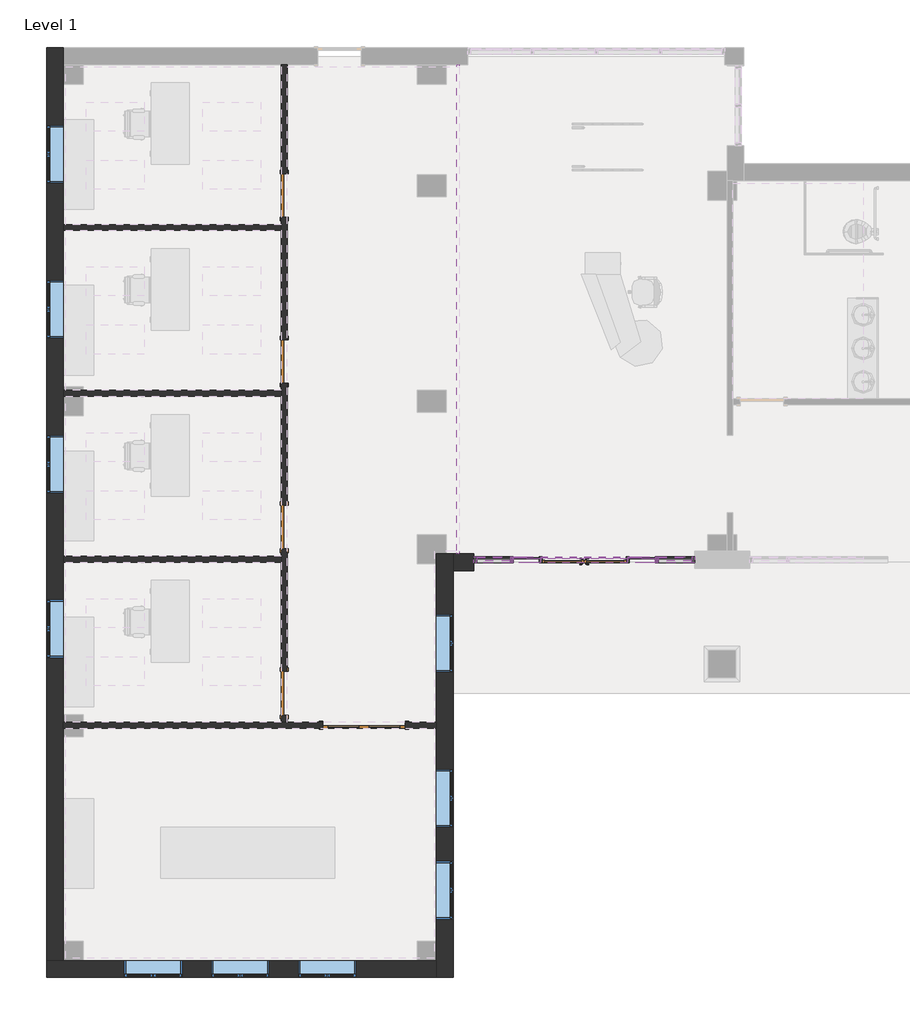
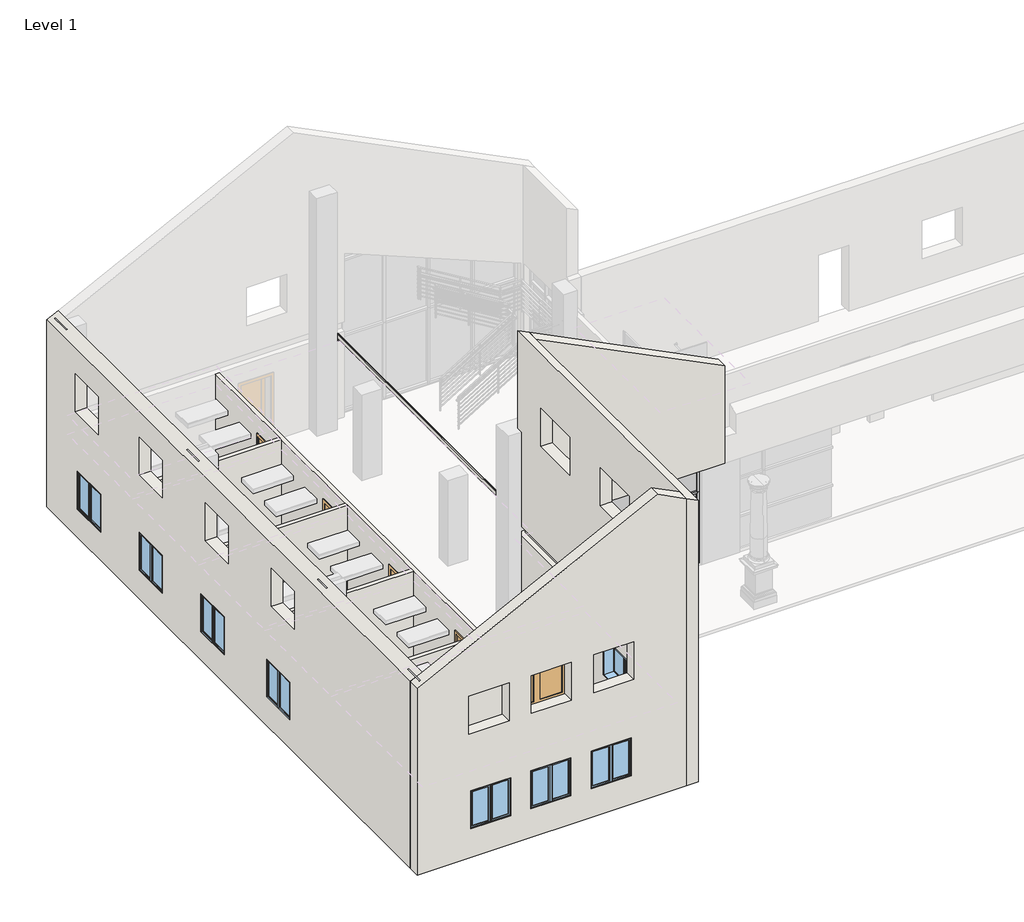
# One storey, part 1 of 8: 28 members, 10 walls, 10 windows, 9 plates, 6 doors.
"""IFC4 building model written with IfcOpenShell, lengths in millimetres."""

from ifc_helpers import new_model, si_unit, origin, origin_with_axes, place, context, project, spatial, polyline, outline, extrude, faceted_brep, transform, mapped, element, save
from components import curtain_wall_store_front_dbl_store_front_double_door_b1cda55e, door_8c1e798b, door_eb9f8b14, member_a715cb85, member_2b49869a, member_c7c5a8a0, member_f3028526, member_75074519, member_c4de40ee, member_2fae0574, member_47bfaf8a, member_13dc6413, member_4ab4c2f5, member_b5e65c95, member_b3f2e294, member_d60e8053, member_3ca69e07, member_338de68b, system_panel_glazed_53b4157c, system_panel_glazed_7b5ce646, system_panel_glazed_23a32a5b, system_panel_glazed_4b03a3f1, system_panel_glazed_2f00aa6c, system_panel_glazed_88a41a63, system_panel_solid_52285aff, system_panel_solid_6039f36e, window_75435c65

model = new_model("IFC4")

# Units and contexts
model_context = context("Model", 3, world=origin())
ifc_project = project(units=[si_unit("LENGTHUNIT", "METRE", prefix="MILLI")], contexts=[model_context])

# Site, building, storey
site = spatial("IfcSite", under=ifc_project)
building = spatial("IfcBuilding", under=site)
storey = spatial("IfcBuildingStorey", under=building, Name="Level 1", Elevation=0.0)

# Doors
placement = place(None, origin())
curtain_wall_store_front_dbl_store_front_double_door_shape = curtain_wall_store_front_dbl_store_front_double_door_b1cda55e(model_context)
element("IfcDoor", 1, ObjectType="Curtain Wall-Store Front-Dbl : Store Front Double Door", at=placement, inside=storey, context=model_context, shape_type="MappedRepresentation", body=[
    mapped(curtain_wall_store_front_dbl_store_front_double_door_shape, transform((-2655.3516552, 175.3980424, 0.0), x_axis=(1.0, 0.0, 0.0), y_axis=(0.0, 1.0, 0.0), z_axis=(0.0, 0.0, 1.0))),
])
door_shape = door_8c1e798b(model_context)
element("IfcDoor", 2, ObjectType="Double-Glass 1 : 68\" x 84\"", at=placement, inside=storey, context=model_context, shape_type="MappedRepresentation", body=[
    mapped(door_shape, transform((-7278.1516552, -3292.4957076, 0.0), x_axis=(1.0, 0.0, 0.0), y_axis=(0.0, 1.0, 0.0), z_axis=(0.0, 0.0, 1.0))),
])
door_2_shape = door_eb9f8b14(model_context)
element("IfcDoor", 3, ObjectType="Single-Flush : 36\" x 84\"", at=placement, inside=storey, context=model_context, shape_type="MappedRepresentation", body=[
    mapped(door_2_shape, transform((-8949.7891552, -2623.3644576, 0.0), x_axis=(0.0, -1.0, 0.0), y_axis=(1.0, 0.0, 0.0), z_axis=(0.0, 0.0, 1.0))),
])
element("IfcDoor", 4, ObjectType="Single-Flush : 36\" x 84\"", at=placement, inside=storey, context=model_context, shape_type="MappedRepresentation", body=[
    mapped(door_2_shape, transform((-8949.7891552, 862.7855424, 0.0), x_axis=(0.0, -1.0, 0.0), y_axis=(1.0, 0.0, 0.0), z_axis=(0.0, 0.0, 1.0))),
])
element("IfcDoor", 5, ObjectType="Single-Flush : 36\" x 84\"", at=placement, inside=storey, context=model_context, shape_type="MappedRepresentation", body=[
    mapped(door_2_shape, transform((-8949.7891552, 4339.4105424, 0.0), x_axis=(0.0, -1.0, 0.0), y_axis=(1.0, 0.0, 0.0), z_axis=(0.0, 0.0, 1.0))),
])
element("IfcDoor", 6, ObjectType="Single-Flush : 36\" x 84\"", at=placement, inside=storey, context=model_context, shape_type="MappedRepresentation", body=[
    mapped(door_2_shape, transform((-8949.7891552, 7820.7980424, 0.0), x_axis=(0.0, -1.0, 0.0), y_axis=(1.0, 0.0, 0.0), z_axis=(0.0, 0.0, 1.0))),
])

# Members
member_shape = member_a715cb85(model_context)
element("IfcMember", 7, ObjectType="Rectangular Mullion : 2.5\" x 5\" Rectangular", at=placement, inside=storey, context=model_context, shape_type="MappedRepresentation", body=[
    mapped(member_shape, transform((-4179.3516552, 175.3980424, 0.0), x_axis=(1.0, 0.0, 0.0), y_axis=(0.0, -1.0, 0.0), z_axis=(0.0, 0.0, -1.0))),
])
element("IfcMember", 8, ObjectType="Rectangular Mullion : 2.5\" x 5\" Rectangular", at=placement, inside=storey, context=model_context, shape_type="MappedRepresentation", body=[
    mapped(member_shape, transform((-1131.3516552, 175.3980424, 0.0), x_axis=(1.0, 0.0, 0.0), y_axis=(0.0, -1.0, 0.0), z_axis=(0.0, 0.0, -1.0))),
])
element("IfcMember", 9, ObjectType="Rectangular Mullion : 2.5\" x 5\" Rectangular", at=placement, inside=storey, context=model_context, shape_type="MappedRepresentation", body=[
    mapped(member_shape, transform((-369.3516552, 175.3980424, 0.0), x_axis=(1.0, 0.0, 0.0), y_axis=(0.0, -1.0, 0.0), z_axis=(0.0, 0.0, -1.0))),
])
member_2_shape = member_2b49869a(model_context)
element("IfcMember", 10, ObjectType="Rectangular Mullion : 2.5\" x 5\" Rectangular", at=placement, inside=storey, context=model_context, shape_type="MappedRepresentation", body=[
    mapped(member_2_shape, transform((-4179.3516552, 175.3980424, 1066.8), x_axis=(1.0, 0.0, 0.0), y_axis=(0.0, -1.0, 0.0), z_axis=(0.0, 0.0, -1.0))),
])
element("IfcMember", 11, ObjectType="Rectangular Mullion : 2.5\" x 5\" Rectangular", at=placement, inside=storey, context=model_context, shape_type="MappedRepresentation", body=[
    mapped(member_2_shape, transform((-1131.3516552, 175.3980424, 1066.8), x_axis=(1.0, 0.0, 0.0), y_axis=(0.0, -1.0, 0.0), z_axis=(0.0, 0.0, -1.0))),
])
element("IfcMember", 12, ObjectType="Rectangular Mullion : 2.5\" x 5\" Rectangular", at=placement, inside=storey, context=model_context, shape_type="MappedRepresentation", body=[
    mapped(member_2_shape, transform((-369.3516552, 175.3980424, 1066.8), x_axis=(1.0, 0.0, 0.0), y_axis=(0.0, -1.0, 0.0), z_axis=(0.0, 0.0, -1.0))),
])
member_3_shape = member_c7c5a8a0(model_context)
element("IfcMember", 13, ObjectType="Rectangular Mullion : 2.5\" x 5\" Rectangular", at=placement, inside=storey, context=model_context, shape_type="MappedRepresentation", body=[
    mapped(member_3_shape, transform((-401.1016552, 175.3980424, 2286.0), x_axis=(0.0, 0.0, 1.0), y_axis=(0.0, -1.0, 0.0), z_axis=(1.0, 0.0, 0.0))),
])
element("IfcMember", 14, ObjectType="Rectangular Mullion : 2.5\" x 5\" Rectangular", at=placement, inside=storey, context=model_context, shape_type="MappedRepresentation", body=[
    mapped(member_3_shape, transform((-401.1016552, 175.3980424, 1066.8), x_axis=(0.0, 0.0, 1.0), y_axis=(0.0, -1.0, 0.0), z_axis=(1.0, 0.0, 0.0))),
])
member_4_shape = member_f3028526(model_context)
element("IfcMember", 15, ObjectType="Rectangular Mullion : 2.5\" x 5\" Rectangular", at=placement, inside=storey, context=model_context, shape_type="MappedRepresentation", body=[
    mapped(member_4_shape, transform((-4211.1016552, 175.3980424, 2286.0), x_axis=(0.0, 0.0, 1.0), y_axis=(0.0, -1.0, 0.0), z_axis=(1.0, 0.0, 0.0))),
])
element("IfcMember", 16, ObjectType="Rectangular Mullion : 2.5\" x 5\" Rectangular", at=placement, inside=storey, context=model_context, shape_type="MappedRepresentation", body=[
    mapped(member_4_shape, transform((-4211.1016552, 175.3980424, 1066.8), x_axis=(0.0, 0.0, 1.0), y_axis=(0.0, -1.0, 0.0), z_axis=(1.0, 0.0, 0.0))),
])
member_5_shape = member_75074519(model_context)
element("IfcMember", 17, ObjectType="Rectangular Mullion : 2.5\" x 5\" Rectangular", at=placement, inside=storey, context=model_context, shape_type="MappedRepresentation", body=[
    mapped(member_5_shape, transform((-4968.3391552, 175.3980424, 2286.0), x_axis=(-1.0, 0.0, 0.0), y_axis=(0.0, -1.0, 0.0), z_axis=(0.0, 0.0, 1.0))),
])
member_6_shape = member_c4de40ee(model_context)
element("IfcMember", 18, ObjectType="Rectangular Mullion : 2.5\" x 5\" Rectangular", at=placement, inside=storey, context=model_context, shape_type="MappedRepresentation", body=[
    mapped(member_6_shape, transform((-4968.3391552, 175.3980424, 1066.8), x_axis=(-1.0, 0.0, 0.0), y_axis=(0.0, -1.0, 0.0), z_axis=(0.0, 0.0, 1.0))),
])
member_7_shape = member_2fae0574(model_context)
element("IfcMember", 19, ObjectType="Rectangular Mullion : 2.5\" x 5\" Rectangular", at=placement, inside=storey, context=model_context, shape_type="MappedRepresentation", body=[
    mapped(member_7_shape, transform((-1740.9516552, 175.3980424, 3060.0), x_axis=(0.0, 0.0, 1.0), y_axis=(0.0, -1.0, 0.0), z_axis=(1.0, 0.0, 0.0))),
])
member_8_shape = member_47bfaf8a(model_context)
element("IfcMember", 20, ObjectType="Rectangular Mullion : 2.5\" x 5\" Rectangular", at=placement, inside=storey, context=model_context, shape_type="MappedRepresentation", body=[
    mapped(member_8_shape, transform((-3569.7516552, 175.3980424, 3060.0), x_axis=(0.0, 0.0, 1.0), y_axis=(0.0, -1.0, 0.0), z_axis=(1.0, 0.0, 0.0))),
])
element("IfcMember", 21, ObjectType="Rectangular Mullion : 2.5\" x 5\" Rectangular", at=placement, inside=storey, context=model_context, shape_type="MappedRepresentation", body=[
    mapped(member_8_shape, transform((-1131.3516552, 175.3980424, 3060.0), x_axis=(0.0, 0.0, 1.0), y_axis=(0.0, -1.0, 0.0), z_axis=(1.0, 0.0, 0.0))),
])
member_9_shape = member_13dc6413(model_context)
element("IfcMember", 22, ObjectType="Rectangular Mullion : 2.5\" x 5\" Rectangular", at=placement, inside=storey, context=model_context, shape_type="MappedRepresentation", body=[
    mapped(member_9_shape, transform((-337.6016552, 175.3980424, 3060.0), x_axis=(0.0, 0.0, 1.0), y_axis=(0.0, -1.0, 0.0), z_axis=(1.0, 0.0, 0.0))),
])
member_10_shape = member_4ab4c2f5(model_context)
element("IfcMember", 23, ObjectType="Rectangular Mullion : 2.5\" x 5\" Rectangular", at=placement, inside=storey, context=model_context, shape_type="MappedRepresentation", body=[
    mapped(member_10_shape, transform((-4179.3516552, 175.3980424, 3060.0), x_axis=(0.0, 0.0, 1.0), y_axis=(0.0, -1.0, 0.0), z_axis=(1.0, 0.0, 0.0))),
])
element("IfcMember", 24, ObjectType="Rectangular Mullion : 2.5\" x 5\" Rectangular", at=placement, inside=storey, context=model_context, shape_type="MappedRepresentation", body=[
    mapped(member_shape, transform((-3569.7516552, 175.3980424, 0.0), x_axis=(1.0, 0.0, 0.0), y_axis=(0.0, -1.0, 0.0), z_axis=(0.0, 0.0, -1.0))),
])
element("IfcMember", 25, ObjectType="Rectangular Mullion : 2.5\" x 5\" Rectangular", at=placement, inside=storey, context=model_context, shape_type="MappedRepresentation", body=[
    mapped(member_shape, transform((-1740.9516552, 175.3980424, 0.0), x_axis=(1.0, 0.0, 0.0), y_axis=(0.0, -1.0, 0.0), z_axis=(0.0, 0.0, -1.0))),
])
member_11_shape = member_b5e65c95(model_context)
element("IfcMember", 26, ObjectType="Rectangular Mullion : 2.5\" x 5\" Rectangular", at=placement, inside=storey, context=model_context, shape_type="MappedRepresentation", body=[
    mapped(member_11_shape, transform((-3569.7516552, 175.3980424, 2286.0), x_axis=(0.0, 0.0, 1.0), y_axis=(0.0, -1.0, 0.0), z_axis=(1.0, 0.0, 0.0))),
])
member_12_shape = member_b3f2e294(model_context)
element("IfcMember", 27, ObjectType="Rectangular Mullion : 2.5\" x 5\" Rectangular", at=placement, inside=storey, context=model_context, shape_type="MappedRepresentation", body=[
    mapped(member_12_shape, transform((-3569.7516552, 175.3980424, 1066.8), x_axis=(1.0, 0.0, 0.0), y_axis=(0.0, -1.0, 0.0), z_axis=(0.0, 0.0, -1.0))),
])
element("IfcMember", 28, ObjectType="Rectangular Mullion : 2.5\" x 5\" Rectangular", at=placement, inside=storey, context=model_context, shape_type="MappedRepresentation", body=[
    mapped(member_12_shape, transform((-1740.9516552, 175.3980424, 1066.8), x_axis=(1.0, 0.0, 0.0), y_axis=(0.0, -1.0, 0.0), z_axis=(0.0, 0.0, -1.0))),
])
element("IfcMember", 29, ObjectType="Rectangular Mullion : 2.5\" x 5\" Rectangular", at=placement, inside=storey, context=model_context, shape_type="MappedRepresentation", body=[
    mapped(member_11_shape, transform((-1163.1016552, 175.3980424, 2286.0), x_axis=(0.0, 0.0, 1.0), y_axis=(0.0, -1.0, 0.0), z_axis=(1.0, 0.0, 0.0))),
])
member_13_shape = member_d60e8053(model_context)
element("IfcMember", 30, ObjectType="Rectangular Mullion : 2.5\" x 5\" Rectangular", at=placement, inside=storey, context=model_context, shape_type="MappedRepresentation", body=[
    mapped(member_13_shape, transform((-1740.9516552, 175.3980424, 2286.0), x_axis=(0.0, 0.0, 1.0), y_axis=(0.0, -1.0, 0.0), z_axis=(1.0, 0.0, 0.0))),
])
member_14_shape = member_3ca69e07(model_context)
element("IfcMember", 31, ObjectType="Rectangular Mullion : 2.5\" x 5\" Rectangular", at=placement, inside=storey, context=model_context, shape_type="MappedRepresentation", body=[
    mapped(member_14_shape, transform((-4179.3516552, 175.3980424, 2286.0), x_axis=(1.0, 0.0, 0.0), y_axis=(0.0, -1.0, 0.0), z_axis=(0.0, 0.0, -1.0))),
])
element("IfcMember", 32, ObjectType="Rectangular Mullion : 2.5\" x 5\" Rectangular", at=placement, inside=storey, context=model_context, shape_type="MappedRepresentation", body=[
    mapped(member_14_shape, transform((-1131.3516552, 175.3980424, 2286.0), x_axis=(1.0, 0.0, 0.0), y_axis=(0.0, -1.0, 0.0), z_axis=(0.0, 0.0, -1.0))),
])
element("IfcMember", 33, ObjectType="Rectangular Mullion : 2.5\" x 5\" Rectangular", at=placement, inside=storey, context=model_context, shape_type="MappedRepresentation", body=[
    mapped(member_14_shape, transform((-369.3516552, 175.3980424, 2286.0), x_axis=(1.0, 0.0, 0.0), y_axis=(0.0, -1.0, 0.0), z_axis=(0.0, 0.0, -1.0))),
])
member_15_shape = member_338de68b(model_context)
element("IfcMember", 34, ObjectType="Rectangular Mullion : 2.5\" x 5\" Rectangular", at=placement, inside=storey, context=model_context, shape_type="MappedRepresentation", body=[
    mapped(member_15_shape, transform((-4968.3391552, 175.3980424, 2996.5), x_axis=(-1.0, 0.0, 0.0), y_axis=(0.0, -1.0, 0.0), z_axis=(0.0, 0.0, 1.0))),
])

# Plates
system_panel_glazed_shape = system_panel_glazed_53b4157c(model_context)
element("IfcPlate", 35, ObjectType="System Panel : Glazed", at=placement, inside=storey, context=model_context, shape_type="MappedRepresentation", body=[
    mapped(system_panel_glazed_shape, transform((-750.3516552, 175.3980424, 0.0), x_axis=(1.0, 0.0, 0.0), y_axis=(0.0, 1.0, 0.0), z_axis=(0.0, 0.0, 1.0))),
])
system_panel_glazed_2_shape = system_panel_glazed_7b5ce646(model_context)
element("IfcPlate", 36, ObjectType="System Panel : Glazed", at=placement, inside=storey, context=model_context, shape_type="MappedRepresentation", body=[
    mapped(system_panel_glazed_2_shape, transform((-750.3516552, 175.3980424, 1098.55), x_axis=(1.0, 0.0, 0.0), y_axis=(0.0, 1.0, 0.0), z_axis=(0.0, 0.0, 1.0))),
])
system_panel_glazed_3_shape = system_panel_glazed_23a32a5b(model_context)
element("IfcPlate", 37, ObjectType="System Panel : Glazed", at=placement, inside=storey, context=model_context, shape_type="MappedRepresentation", body=[
    mapped(system_panel_glazed_3_shape, transform((-4557.9704052, 175.3980424, 0.0), x_axis=(1.0, 0.0, 0.0), y_axis=(0.0, 1.0, 0.0), z_axis=(0.0, 0.0, 1.0))),
])
system_panel_glazed_4_shape = system_panel_glazed_4b03a3f1(model_context)
element("IfcPlate", 38, ObjectType="System Panel : Glazed", at=placement, inside=storey, context=model_context, shape_type="MappedRepresentation", body=[
    mapped(system_panel_glazed_4_shape, transform((-4557.9704052, 175.3980424, 1098.55), x_axis=(1.0, 0.0, 0.0), y_axis=(0.0, 1.0, 0.0), z_axis=(0.0, 0.0, 1.0))),
])
system_panel_glazed_5_shape = system_panel_glazed_2f00aa6c(model_context)
element("IfcPlate", 39, ObjectType="System Panel : Glazed", at=placement, inside=storey, context=model_context, shape_type="MappedRepresentation", body=[
    mapped(system_panel_glazed_5_shape, transform((-3874.5516552, 175.3980424, 0.0), x_axis=(1.0, 0.0, 0.0), y_axis=(0.0, 1.0, 0.0), z_axis=(0.0, 0.0, 1.0))),
])
element("IfcPlate", 40, ObjectType="System Panel : Glazed", at=placement, inside=storey, context=model_context, shape_type="MappedRepresentation", body=[
    mapped(system_panel_glazed_5_shape, transform((-1436.1516552, 175.3980424, 0.0), x_axis=(1.0, 0.0, 0.0), y_axis=(0.0, 1.0, 0.0), z_axis=(0.0, 0.0, 1.0))),
])
system_panel_glazed_6_shape = system_panel_glazed_88a41a63(model_context)
element("IfcPlate", 41, ObjectType="System Panel : Glazed", at=placement, inside=storey, context=model_context, shape_type="MappedRepresentation", body=[
    mapped(system_panel_glazed_6_shape, transform((-2655.3516552, 175.3980424, 2317.75), x_axis=(1.0, 0.0, 0.0), y_axis=(0.0, 1.0, 0.0), z_axis=(0.0, 0.0, 1.0))),
])
system_panel_solid_shape = system_panel_solid_52285aff(model_context)
element("IfcPlate", 42, ObjectType="System Panel : Solid", at=placement, inside=storey, context=model_context, shape_type="MappedRepresentation", body=[
    mapped(system_panel_solid_shape, transform((-4557.9704052, 175.3980424, 2317.75), x_axis=(1.0, 0.0, 0.0), y_axis=(0.0, 1.0, 0.0), z_axis=(0.0, 0.0, 1.0))),
])
system_panel_solid_2_shape = system_panel_solid_6039f36e(model_context)
element("IfcPlate", 43, ObjectType="System Panel : Solid", at=placement, inside=storey, context=model_context, shape_type="MappedRepresentation", body=[
    mapped(system_panel_solid_2_shape, transform((-750.3516552, 175.3980424, 2317.75), x_axis=(1.0, 0.0, 0.0), y_axis=(0.0, 1.0, 0.0), z_axis=(0.0, 0.0, 1.0))),
])

# Walls
element("IfcWall", 44, ObjectType="Soffit - 1/2\" GWB & Metal Stud", at=placement, inside=storey, context=model_context, shape_type="Brep", body=[
    faceted_brep([(-5273.1391552, 10568.7605424, 2755.2), (-5273.1391552, 300.8105424, 2755.2), (-5273.1391552, 300.8105424, 2540.0), (-5273.1391552, 351.6105424, 2540.0), (-5273.1391552, 351.6105424, 2647.95), (-5273.1391552, 10517.9605424, 2647.95), (-5273.1391552, 10517.9605424, 2540.0), (-5273.1391552, 10568.7605424, 2540.0), (-5323.9391552, 10568.7605424, 2755.2), (-5323.9391552, 10568.7605424, 2540.0), (-5323.9391552, 10517.9605424, 2540.0), (-5323.9391552, 10517.9605424, 2647.95), (-5323.9391552, 351.6105424, 2647.95), (-5323.9391552, 351.6105424, 2540.0), (-5323.9391552, 300.8105424, 2540.0), (-5323.9391552, 300.8105424, 2755.2), (-5284.2516552, 10568.7605424, 2755.2), (-5284.2516552, 9554.527236, 2755.2), (-5284.2516552, 300.8105424, 2755.2)], [[[0, 1, 2, 3, 4, 5, 6, 7]], [[8, 9, 10, 11, 12, 13, 14, 15]], [[9, 7, 6, 10]], [[2, 14, 13, 3]], [[11, 5, 4, 12]], [[12, 4, 3, 13]], [[5, 11, 10, 6]], [[1, 0, 16, 17, 18]], [[0, 7, 9, 8, 16]], [[2, 1, 18, 15, 14]], [[16, 8, 15, 18, 17]]]),
])
element("IfcWall", 45, ObjectType="Exterior - Brick on Mtl. Stud", at=placement, inside=storey, context=model_context, shape_type="Brep", body=[
    faceted_brep([(-5754.1516552, 300.8105424, 0.0), (-5754.1516552, 97.6105424, 0.0), (-5754.1516552, -3232.9644576, 0.0), (-5754.1516552, -3356.7894576, 0.0), (-5754.1516552, -7827.1894576, 0.0), (-5754.1516552, -8233.5894576, 0.0), (-5754.1516552, -8586.0144576, 0.0), (-5754.1516552, -8586.0144576, 9230.55), (-5754.1516552, -8233.5894576, 9230.55), (-5754.1516552, 300.8105424, 9230.55), (-5754.1516552, 300.8105424, 6100.0), (-5754.1516552, 300.8105424, 3060.0), (-5754.1516552, -3232.9644576, 3060.0), (-5754.1516552, -3356.7894576, 3060.0), (-5754.1516552, -8233.5894576, 3060.0), (-5754.1516552, -8398.6894576, 3060.0), (-5754.1516552, -8398.6894576, 2755.2), (-5754.1516552, -8233.5894576, 2755.2), (-5754.1516552, -3356.7894576, 2755.2), (-5754.1516552, -3232.9644576, 2755.2), (-5754.1516552, 300.8105424, 2755.2), (-5754.1516552, -7366.8144576, 2133.6), (-5754.1516552, -7366.8144576, 914.4), (-5754.1516552, -6147.6144576, 914.4), (-5754.1516552, -6147.6144576, 2133.6), (-5754.1516552, -5436.4144576, 2133.6), (-5754.1516552, -5436.4144576, 914.4), (-5754.1516552, -4217.2144576, 914.4), (-5754.1516552, -4217.2144576, 2133.6), (-5754.1516552, -2185.2144576, 2133.6), (-5754.1516552, -2185.2144576, 914.4), (-5754.1516552, -966.0144576, 914.4), (-5754.1516552, -966.0144576, 2133.6), (-5754.1516552, -2439.2144576, 7471.6), (-5754.1516552, -2439.2144576, 6252.4), (-5754.1516552, -915.2144576, 6252.4), (-5754.1516552, -915.2144576, 7471.6), (-5754.1516552, -5572.9394576, 7471.6), (-5754.1516552, -5572.9394576, 6252.4), (-5754.1516552, -4048.9394576, 6252.4), (-5754.1516552, -4048.9394576, 7471.6), (-5754.1516552, -7471.5894576, 7471.6), (-5754.1516552, -7471.5894576, 6252.4), (-5754.1516552, -5947.5894576, 6252.4), (-5754.1516552, -5947.5894576, 7471.6), (-5754.1516552, -5420.5394576, 5193.6), (-5754.1516552, -5420.5394576, 3974.4), (-5754.1516552, -4201.3394576, 3974.4), (-5754.1516552, -4201.3394576, 5193.6), (-5754.1516552, -7319.1894576, 5193.6), (-5754.1516552, -7319.1894576, 3974.4), (-5754.1516552, -6099.9894576, 3974.4), (-5754.1516552, -6099.9894576, 5193.6), (-5401.7266552, -8586.0144576, 0.0), (-5401.7266552, -51.6144576, 0.0), (-5401.7266552, 300.8105424, 0.0), (-5401.7266552, 300.8105424, 2755.2), (-5401.7266552, 175.3980424, 2755.2), (-5401.7266552, 175.3980424, 3060.0), (-5401.7266552, 300.8105424, 3060.0), (-5401.7266552, 300.8105424, 9054.3375), (-5401.7266552, -51.6144576, 9054.3375), (-5401.7266552, -8586.0144576, 9054.3375), (-5401.7266552, -7366.8144576, 914.4), (-5401.7266552, -7366.8144576, 2133.6), (-5401.7266552, -6147.6144576, 2133.6), (-5401.7266552, -6147.6144576, 914.4), (-5401.7266552, -5436.4144576, 914.4), (-5401.7266552, -5436.4144576, 2133.6), (-5401.7266552, -4217.2144576, 2133.6), (-5401.7266552, -4217.2144576, 914.4), (-5401.7266552, -2185.2144576, 914.4), (-5401.7266552, -2185.2144576, 2133.6), (-5401.7266552, -966.0144576, 2133.6), (-5401.7266552, -966.0144576, 914.4), (-5401.7266552, -2439.2144576, 6252.4), (-5401.7266552, -2439.2144576, 7471.6), (-5401.7266552, -915.2144576, 7471.6), (-5401.7266552, -915.2144576, 6252.4), (-5401.7266552, -5572.9394576, 6252.4), (-5401.7266552, -5572.9394576, 7471.6), (-5401.7266552, -4048.9394576, 7471.6), (-5401.7266552, -4048.9394576, 6252.4), (-5401.7266552, -7471.5894576, 6252.4), (-5401.7266552, -7471.5894576, 7471.6), (-5401.7266552, -5947.5894576, 7471.6), (-5401.7266552, -5947.5894576, 6252.4), (-5401.7266552, -5420.5394576, 3974.4), (-5401.7266552, -5420.5394576, 5193.6), (-5401.7266552, -4201.3394576, 5193.6), (-5401.7266552, -4201.3394576, 3974.4), (-5401.7266552, -7319.1894576, 3974.4), (-5401.7266552, -7319.1894576, 5193.6), (-5401.7266552, -6099.9894576, 5193.6), (-5401.7266552, -6099.9894576, 3974.4), (-5550.9516552, 300.8105424, 0.0), (-5589.0516552, -8398.6894576, 2755.2), (-5589.0516552, 175.3980424, 2755.2), (-5589.0516552, 175.3980424, 3060.0), (-5589.0516552, -8398.6894576, 3060.0)], [[[0, 1, 2, 3, 4, 5, 6, 7, 8, 9, 10, 11, 12, 13, 14, 15, 16, 17, 18, 19, 20], [21, 22, 23, 24], [25, 26, 27, 28], [29, 30, 31, 32], [33, 34, 35, 36], [37, 38, 39, 40], [41, 42, 43, 44], [45, 46, 47, 48], [49, 50, 51, 52]], [[53, 54, 55, 56, 57, 58, 59, 60, 61, 62], [63, 64, 65, 66], [67, 68, 69, 70], [71, 72, 73, 74], [75, 76, 77, 78], [79, 80, 81, 82], [83, 84, 85, 86], [87, 88, 89, 90], [91, 92, 93, 94]], [[6, 5, 4, 3, 2, 1, 0, 95, 55, 54, 53]], [[22, 21, 64, 63]], [[23, 22, 63, 66]], [[24, 23, 66, 65]], [[21, 24, 65, 64]], [[26, 25, 68, 67]], [[27, 26, 67, 70]], [[28, 27, 70, 69]], [[25, 28, 69, 68]], [[30, 29, 72, 71]], [[31, 30, 71, 74]], [[32, 31, 74, 73]], [[29, 32, 73, 72]], [[9, 8, 7, 62, 61, 60]], [[34, 33, 76, 75]], [[35, 34, 75, 78]], [[36, 35, 78, 77]], [[33, 36, 77, 76]], [[38, 37, 80, 79]], [[39, 38, 79, 82]], [[40, 39, 82, 81]], [[37, 40, 81, 80]], [[42, 41, 84, 83]], [[43, 42, 83, 86]], [[44, 43, 86, 85]], [[41, 44, 85, 84]], [[46, 45, 88, 87]], [[47, 46, 87, 90]], [[48, 47, 90, 89]], [[45, 48, 89, 88]], [[50, 49, 92, 91]], [[51, 50, 91, 94]], [[52, 51, 94, 93]], [[49, 52, 93, 92]], [[96, 97, 57, 56, 20, 19, 18, 17, 16]], [[98, 99, 15, 14, 13, 12, 11, 59, 58]], [[97, 96, 99, 98]], [[99, 96, 16, 15]], [[9, 60, 59, 11, 10]], [[55, 95, 0, 20, 56]], [[7, 6, 53, 62]], [[97, 98, 58, 57]]]),
])
element("IfcWall", 46, ObjectType="Exterior - Brick on Mtl. Stud", at=placement, inside=storey, context=model_context, shape_type="Brep", body=[
    faceted_brep([(-5754.1516552, -8233.5894576, 0.0), (-6160.5516552, -8233.5894576, 0.0), (-13170.9516552, -8233.5894576, 0.0), (-13583.7016552, -8233.5894576, 0.0), (-13936.1266552, -8233.5894576, 0.0), (-13936.1266552, -8233.5894576, 6006.3375), (-13583.7016552, -8233.5894576, 6182.55), (-6620.9266552, -8233.5894576, 9663.9375), (-5754.1516552, -8233.5894576, 9230.55), (-5754.1516552, -8233.5894576, 6100.0), (-5754.1516552, -8233.5894576, 3060.0), (-13596.4016552, -8233.5894576, 3060.0), (-13596.4016552, -8233.5894576, 2755.2), (-5754.1516552, -8233.5894576, 2755.2), (-12310.5266552, -8233.5894576, 2133.6), (-12310.5266552, -8233.5894576, 914.4), (-11091.3266552, -8233.5894576, 914.4), (-11091.3266552, -8233.5894576, 2133.6), (-10481.7266552, -8233.5894576, 2133.6), (-10481.7266552, -8233.5894576, 914.4), (-9262.5266552, -8233.5894576, 914.4), (-9262.5266552, -8233.5894576, 2133.6), (-8652.9266552, -8233.5894576, 2133.6), (-8652.9266552, -8233.5894576, 914.4), (-7433.7266552, -8233.5894576, 914.4), (-7433.7266552, -8233.5894576, 2133.6), (-8567.2016552, -8233.5894576, 5193.6), (-8567.2016552, -8233.5894576, 3974.4), (-7348.0016552, -8233.5894576, 3974.4), (-7348.0016552, -8233.5894576, 5193.6), (-10465.8516552, -8233.5894576, 5193.6), (-10465.8516552, -8233.5894576, 3974.4), (-9246.6516552, -8233.5894576, 3974.4), (-9246.6516552, -8233.5894576, 5193.6), (-12364.5016552, -8233.5894576, 5193.6), (-12364.5016552, -8233.5894576, 3974.4), (-11145.3016552, -8233.5894576, 3974.4), (-11145.3016552, -8233.5894576, 5193.6), (-13936.1266552, -8586.0144576, 0.0), (-5754.1516552, -8586.0144576, 0.0), (-5754.1516552, -8586.0144576, 9230.55), (-6620.9266552, -8586.0144576, 9663.9375), (-13936.1266552, -8586.0144576, 6006.3375), (-12310.5266552, -8586.0144576, 914.4), (-12310.5266552, -8586.0144576, 2133.6), (-11091.3266552, -8586.0144576, 2133.6), (-11091.3266552, -8586.0144576, 914.4), (-10481.7266552, -8586.0144576, 914.4), (-10481.7266552, -8586.0144576, 2133.6), (-9262.5266552, -8586.0144576, 2133.6), (-9262.5266552, -8586.0144576, 914.4), (-8652.9266552, -8586.0144576, 914.4), (-8652.9266552, -8586.0144576, 2133.6), (-7433.7266552, -8586.0144576, 2133.6), (-7433.7266552, -8586.0144576, 914.4), (-8567.2016552, -8586.0144576, 3974.4), (-8567.2016552, -8586.0144576, 5193.6), (-7348.0016552, -8586.0144576, 5193.6), (-7348.0016552, -8586.0144576, 3974.4), (-10465.8516552, -8586.0144576, 3974.4), (-10465.8516552, -8586.0144576, 5193.6), (-9246.6516552, -8586.0144576, 5193.6), (-9246.6516552, -8586.0144576, 3974.4), (-12364.5016552, -8586.0144576, 3974.4), (-12364.5016552, -8586.0144576, 5193.6), (-11145.3016552, -8586.0144576, 5193.6), (-11145.3016552, -8586.0144576, 3974.4), (-13596.4016552, -8398.6894576, 2755.2), (-5754.1516552, -8398.6894576, 2755.2), (-5754.1516552, -8398.6894576, 3060.0), (-13596.4016552, -8398.6894576, 3060.0)], [[[0, 1, 2, 3, 4, 5, 6, 7, 8, 9, 10, 11, 12, 13], [14, 15, 16, 17], [18, 19, 20, 21], [22, 23, 24, 25], [26, 27, 28, 29], [30, 31, 32, 33], [34, 35, 36, 37]], [[38, 39, 40, 41, 42], [43, 44, 45, 46], [47, 48, 49, 50], [51, 52, 53, 54], [55, 56, 57, 58], [59, 60, 61, 62], [63, 64, 65, 66]], [[4, 3, 2, 1, 0, 39, 38]], [[15, 14, 44, 43]], [[16, 15, 43, 46]], [[17, 16, 46, 45]], [[14, 17, 45, 44]], [[19, 18, 48, 47]], [[20, 19, 47, 50]], [[21, 20, 50, 49]], [[18, 21, 49, 48]], [[23, 22, 52, 51]], [[24, 23, 51, 54]], [[25, 24, 54, 53]], [[22, 25, 53, 52]], [[8, 7, 41, 40]], [[7, 6, 5, 42, 41]], [[27, 26, 56, 55]], [[28, 27, 55, 58]], [[29, 28, 58, 57]], [[26, 29, 57, 56]], [[31, 30, 60, 59]], [[32, 31, 59, 62]], [[33, 32, 62, 61]], [[30, 33, 61, 60]], [[35, 34, 64, 63]], [[36, 35, 63, 66]], [[37, 36, 66, 65]], [[34, 37, 65, 64]], [[12, 67, 68, 13]], [[69, 70, 11, 10]], [[67, 70, 69, 68]], [[70, 67, 12, 11]], [[5, 4, 38, 42]], [[8, 40, 39, 0, 13, 68, 69, 10, 9]]]),
])
element("IfcWall", 47, ObjectType="Exterior - Brick on Mtl. Stud", at=placement, inside=storey, context=model_context, shape_type="Brep", body=[
    faceted_brep([(-13583.7016552, -8233.5894576, 0.0), (-13583.7016552, -7827.1894576, 0.0), (-13583.7016552, -3534.5894576, 0.0), (-13583.7016552, -3356.7894576, 0.0), (-13583.7016552, -3232.9644576, 0.0), (-13583.7016552, -3077.3894576, 0.0), (-13583.7016552, 124.5980424, 0.0), (-13583.7016552, 248.4230424, 0.0), (-13583.7016552, 3196.4105424, 0.0), (-13583.7016552, 3605.9855424, 0.0), (-13583.7016552, 3729.8105424, 0.0), (-13583.7016552, 3806.0105424, 0.0), (-13583.7016552, 7087.3730424, 0.0), (-13583.7016552, 7211.1980424, 0.0), (-13583.7016552, 10156.0105424, 0.0), (-13583.7016552, 10568.7605424, 0.0), (-13583.7016552, 10921.1855424, 0.0), (-13583.7016552, 10921.1855424, 6182.55), (-13583.7016552, 10568.7605424, 6182.55), (-13583.7016552, -8233.5894576, 6182.55), (-13583.7016552, -8233.5894576, 6100.0), (-13583.7016552, -8233.5894576, 3060.0), (-13583.7016552, -3356.7894576, 3060.0), (-13583.7016552, -3232.9644576, 3060.0), (-13583.7016552, 124.5980424, 3060.0), (-13583.7016552, 248.4230424, 3060.0), (-13583.7016552, 3605.9855424, 3060.0), (-13583.7016552, 3729.8105424, 3060.0), (-13583.7016552, 7087.3730424, 3060.0), (-13583.7016552, 7211.1980424, 3060.0), (-13583.7016552, 10733.8605424, 3060.0), (-13583.7016552, 10733.8605424, 2755.2), (-13583.7016552, 7211.1980424, 2755.2), (-13583.7016552, 7087.3730424, 2755.2), (-13583.7016552, 3729.8105424, 2755.2), (-13583.7016552, 3605.9855424, 2755.2), (-13583.7016552, 248.4230424, 2755.2), (-13583.7016552, 124.5980424, 2755.2), (-13583.7016552, -3232.9644576, 2755.2), (-13583.7016552, -3356.7894576, 2755.2), (-13583.7016552, -8233.5894576, 2755.2), (-13583.7016552, -661.2144576, 2133.6), (-13583.7016552, -661.2144576, 914.4), (-13583.7016552, -1880.4144576, 914.4), (-13583.7016552, -1880.4144576, 2133.6), (-13583.7016552, 2793.1855424, 2133.6), (-13583.7016552, 2793.1855424, 914.4), (-13583.7016552, 1573.9855424, 914.4), (-13583.7016552, 1573.9855424, 2133.6), (-13583.7016552, 6044.3855424, 2133.6), (-13583.7016552, 6044.3855424, 914.4), (-13583.7016552, 4825.1855424, 914.4), (-13583.7016552, 4825.1855424, 2133.6), (-13583.7016552, 9295.5855424, 2133.6), (-13583.7016552, 9295.5855424, 914.4), (-13583.7016552, 8076.3855424, 914.4), (-13583.7016552, 8076.3855424, 2133.6), (-13583.7016552, 9414.6480424, 5193.6), (-13583.7016552, 9414.6480424, 3974.4), (-13583.7016552, 8195.4480424, 3974.4), (-13583.7016552, 8195.4480424, 5193.6), (-13583.7016552, 6053.1167924, 5193.6), (-13583.7016552, 6053.1167924, 3974.4), (-13583.7016552, 4833.9167924, 3974.4), (-13583.7016552, 4833.9167924, 5193.6), (-13583.7016552, 2571.7292924, 5193.6), (-13583.7016552, 2571.7292924, 3974.4), (-13583.7016552, 1352.5292924, 3974.4), (-13583.7016552, 1352.5292924, 5193.6), (-13583.7016552, -909.6582076, 5193.6), (-13583.7016552, -909.6582076, 3974.4), (-13583.7016552, -2128.8582076, 3974.4), (-13583.7016552, -2128.8582076, 5193.6), (-13936.1266552, 10921.1855424, 0.0), (-13936.1266552, -8233.5894576, 0.0), (-13936.1266552, -8233.5894576, 6006.3375), (-13936.1266552, 10921.1855424, 6006.3375), (-13936.1266552, -661.2144576, 914.4), (-13936.1266552, -661.2144576, 2133.6), (-13936.1266552, -1880.4144576, 2133.6), (-13936.1266552, -1880.4144576, 914.4), (-13936.1266552, 2793.1855424, 914.4), (-13936.1266552, 2793.1855424, 2133.6), (-13936.1266552, 1573.9855424, 2133.6), (-13936.1266552, 1573.9855424, 914.4), (-13936.1266552, 6044.3855424, 914.4), (-13936.1266552, 6044.3855424, 2133.6), (-13936.1266552, 4825.1855424, 2133.6), (-13936.1266552, 4825.1855424, 914.4), (-13936.1266552, 9295.5855424, 914.4), (-13936.1266552, 9295.5855424, 2133.6), (-13936.1266552, 8076.3855424, 2133.6), (-13936.1266552, 8076.3855424, 914.4), (-13936.1266552, 9414.6480424, 3974.4), (-13936.1266552, 9414.6480424, 5193.6), (-13936.1266552, 8195.4480424, 5193.6), (-13936.1266552, 8195.4480424, 3974.4), (-13936.1266552, 6053.1167924, 3974.4), (-13936.1266552, 6053.1167924, 5193.6), (-13936.1266552, 4833.9167924, 5193.6), (-13936.1266552, 4833.9167924, 3974.4), (-13936.1266552, 2571.7292924, 3974.4), (-13936.1266552, 2571.7292924, 5193.6), (-13936.1266552, 1352.5292924, 5193.6), (-13936.1266552, 1352.5292924, 3974.4), (-13936.1266552, -909.6582076, 3974.4), (-13936.1266552, -909.6582076, 5193.6), (-13936.1266552, -2128.8582076, 5193.6), (-13936.1266552, -2128.8582076, 3974.4), (-13596.4016552, 10733.8605424, 2755.2), (-13596.4016552, -8233.5894576, 2755.2), (-13596.4016552, 10733.8605424, 3060.0), (-13596.4016552, -8233.5894576, 3060.0)], [[[0, 1, 2, 3, 4, 5, 6, 7, 8, 9, 10, 11, 12, 13, 14, 15, 16, 17, 18, 19, 20, 21, 22, 23, 24, 25, 26, 27, 28, 29, 30, 31, 32, 33, 34, 35, 36, 37, 38, 39, 40], [41, 42, 43, 44], [45, 46, 47, 48], [49, 50, 51, 52], [53, 54, 55, 56], [57, 58, 59, 60], [61, 62, 63, 64], [65, 66, 67, 68], [69, 70, 71, 72]], [[73, 74, 75, 76], [77, 78, 79, 80], [81, 82, 83, 84], [85, 86, 87, 88], [89, 90, 91, 92], [93, 94, 95, 96], [97, 98, 99, 100], [101, 102, 103, 104], [105, 106, 107, 108]], [[16, 15, 14, 13, 12, 11, 10, 9, 8, 7, 6, 5, 4, 3, 2, 1, 0, 74, 73]], [[42, 41, 78, 77]], [[43, 42, 77, 80]], [[44, 43, 80, 79]], [[41, 44, 79, 78]], [[46, 45, 82, 81]], [[47, 46, 81, 84]], [[48, 47, 84, 83]], [[45, 48, 83, 82]], [[50, 49, 86, 85]], [[51, 50, 85, 88]], [[52, 51, 88, 87]], [[49, 52, 87, 86]], [[54, 53, 90, 89]], [[55, 54, 89, 92]], [[56, 55, 92, 91]], [[53, 56, 91, 90]], [[19, 18, 17, 76, 75]], [[58, 57, 94, 93]], [[59, 58, 93, 96]], [[60, 59, 96, 95]], [[57, 60, 95, 94]], [[62, 61, 98, 97]], [[63, 62, 97, 100]], [[64, 63, 100, 99]], [[61, 64, 99, 98]], [[66, 65, 102, 101]], [[67, 66, 101, 104]], [[68, 67, 104, 103]], [[65, 68, 103, 102]], [[70, 69, 106, 105]], [[71, 70, 105, 108]], [[72, 71, 108, 107]], [[69, 72, 107, 106]], [[109, 110, 40, 39, 38, 37, 36, 35, 34, 33, 32, 31]], [[111, 30, 29, 28, 27, 26, 25, 24, 23, 22, 21, 112]], [[111, 109, 31, 30]], [[109, 111, 112, 110]], [[17, 16, 73, 76]], [[75, 74, 0, 40, 110, 112, 21, 20, 19]]]),
])
element("IfcWall", 48, ObjectType="Exterior - Brick on Mtl. Stud", at=placement, inside=storey, context=model_context, shape_type="Brep", body=[
    faceted_brep([(-5401.7266552, 300.8105424, 9054.3375), (341.8483448, 300.8105424, 6182.55), (341.8483448, 300.8105424, 3900.0), (341.8483448, 300.8105424, 3060.0), (-4968.3391552, 300.8105424, 3060.0), (-4968.3391552, 300.8105424, 0.0), (-5401.7266552, 300.8105424, 0.0), (341.8483448, -51.6144576, 6182.55), (-5401.7266552, -51.6144576, 9054.3375), (-5401.7266552, -51.6144576, 0.0), (-4968.3391552, -51.6144576, 0.0), (-4968.3391552, -51.6144576, 3060.0), (341.8483448, -51.6144576, 3060.0), (341.8483448, -51.6144576, 3900.0), (341.8483448, -51.6144576, 4627.075)], [[[0, 1, 2, 3, 4, 5, 6]], [[7, 8, 9, 10, 11, 12, 13, 14]], [[9, 6, 5, 10]], [[1, 0, 8, 7]], [[0, 6, 9, 8]], [[3, 2, 1, 7, 14, 13, 12]], [[4, 11, 10, 5]], [[11, 4, 3, 12]]]),
])
element("IfcWall", 49, ObjectType="Interior - 4 7/8\" Partition (1-hr)", at=placement, inside=storey, context=model_context, shape_type="Brep", body=[
    faceted_brep([(-8887.8766552, 4796.6105424, 0.0), (-8887.8766552, 7363.5980424, 0.0), (-8887.8766552, 7363.5980424, 2133.6), (-8887.8766552, 8277.9980424, 2133.6), (-8887.8766552, 8277.9980424, 0.0), (-8887.8766552, 10568.7605424, 0.0), (-8887.8766552, 10568.7605424, 2755.2), (-8887.8766552, -3232.9644576, 2755.2), (-8887.8766552, -3232.9644576, 0.0), (-8887.8766552, -3080.5644576, 0.0), (-8887.8766552, -3080.5644576, 2133.6), (-8887.8766552, -2166.1644576, 2133.6), (-8887.8766552, -2166.1644576, 0.0), (-8887.8766552, 405.5855424, 0.0), (-8887.8766552, 405.5855424, 2133.6), (-8887.8766552, 1319.9855424, 2133.6), (-8887.8766552, 1319.9855424, 0.0), (-8887.8766552, 3882.2105424, 0.0), (-8887.8766552, 3882.2105424, 2133.6), (-8887.8766552, 4796.6105424, 2133.6), (-9011.7016552, 7363.5980424, 2133.6), (-9011.7016552, 7363.5980424, 0.0), (-9011.7016552, 7211.1980424, 0.0), (-9011.7016552, 7087.3730424, 0.0), (-9011.7016552, 4796.6105424, 0.0), (-9011.7016552, 4796.6105424, 2133.6), (-9011.7016552, 3882.2105424, 2133.6), (-9011.7016552, 3882.2105424, 0.0), (-9011.7016552, 3729.8105424, 0.0), (-9011.7016552, 3605.9855424, 0.0), (-9011.7016552, 1319.9855424, 0.0), (-9011.7016552, 1319.9855424, 2133.6), (-9011.7016552, 405.5855424, 2133.6), (-9011.7016552, 405.5855424, 0.0), (-9011.7016552, 248.4230424, 0.0), (-9011.7016552, 124.5980424, 0.0), (-9011.7016552, -2166.1644576, 0.0), (-9011.7016552, -2166.1644576, 2133.6), (-9011.7016552, -3080.5644576, 2133.6), (-9011.7016552, -3080.5644576, 0.0), (-9011.7016552, -3232.9644576, 0.0), (-9011.7016552, -3232.9644576, 2755.2), (-9011.7016552, 124.5980424, 2755.2), (-9011.7016552, 248.4230424, 2755.2), (-9011.7016552, 3605.9855424, 2755.2), (-9011.7016552, 3729.8105424, 2755.2), (-9011.7016552, 7087.3730424, 2755.2), (-9011.7016552, 7211.1980424, 2755.2), (-9011.7016552, 10568.7605424, 2755.2), (-9011.7016552, 10568.7605424, 0.0), (-9011.7016552, 8277.9980424, 0.0), (-9011.7016552, 8277.9980424, 2133.6)], [[[0, 1, 2, 3, 4, 5, 6, 7, 8, 9, 10, 11, 12, 13, 14, 15, 16, 17, 18, 19]], [[20, 21, 22, 23, 24, 25, 26, 27, 28, 29, 30, 31, 32, 33, 34, 35, 36, 37, 38, 39, 40, 41, 42, 43, 44, 45, 46, 47, 48, 49, 50, 51]], [[40, 39, 9, 8]], [[36, 35, 34, 33, 13, 12]], [[30, 29, 28, 27, 17, 16]], [[50, 49, 5, 4]], [[24, 23, 22, 21, 1, 0]], [[8, 7, 41, 40]], [[10, 9, 39, 38]], [[11, 10, 38, 37]], [[12, 11, 37, 36]], [[14, 13, 33, 32]], [[15, 14, 32, 31]], [[16, 15, 31, 30]], [[18, 17, 27, 26]], [[19, 18, 26, 25]], [[0, 19, 25, 24]], [[2, 1, 21, 20]], [[3, 2, 20, 51]], [[4, 3, 51, 50]], [[7, 6, 48, 47, 46, 45, 44, 43, 42, 41]], [[6, 5, 49, 48]]]),
])
element("IfcWall", 50, ObjectType="Interior - 4 7/8\" Partition (1-hr)", at=placement, inside=storey, context=model_context, shape_type="Brep", body=[
    faceted_brep([(-6414.5516552, -3356.7894576, 2133.6), (-6414.5516552, -3356.7894576, 0.0), (-5754.1516552, -3356.7894576, 0.0), (-5754.1516552, -3356.7894576, 2755.2), (-13170.9516552, -3356.7894576, 2755.2), (-13583.7016552, -3356.7894576, 2755.2), (-13583.7016552, -3356.7894576, 0.0), (-13170.9516552, -3356.7894576, 0.0), (-8141.7516552, -3356.7894576, 0.0), (-8141.7516552, -3356.7894576, 2133.6), (-5754.1516552, -3232.9644576, 0.0), (-6414.5516552, -3232.9644576, 0.0), (-6414.5516552, -3232.9644576, 2133.6), (-8141.7516552, -3232.9644576, 2133.6), (-8141.7516552, -3232.9644576, 0.0), (-8887.8766552, -3232.9644576, 0.0), (-9011.7016552, -3232.9644576, 0.0), (-13170.9516552, -3232.9644576, 0.0), (-13583.7016552, -3232.9644576, 0.0), (-13583.7016552, -3232.9644576, 2755.2), (-13170.9516552, -3232.9644576, 2755.2), (-9011.7016552, -3232.9644576, 2755.2), (-8887.8766552, -3232.9644576, 2755.2), (-5754.1516552, -3232.9644576, 2755.2)], [[[0, 1, 2, 3, 4, 5, 6, 7, 8, 9]], [[10, 11, 12, 13, 14, 15, 16, 17, 18, 19, 20, 21, 22, 23]], [[2, 1, 11, 10]], [[8, 7, 6, 18, 17, 16, 15, 14]], [[12, 11, 1, 0]], [[13, 12, 0, 9]], [[14, 13, 9, 8]], [[5, 4, 3, 23, 22, 21, 20, 19]], [[3, 2, 10, 23]], [[6, 5, 19, 18]]]),
])
element("IfcWall", 51, ObjectType="Interior - 4 7/8\" Partition (1-hr)", at=placement, inside=storey, context=model_context, shape_type="SweptSolid", body=[
    extrude(outline(polyline([(-9011.7016552, 124.5980424), (-13583.7016552, 124.5980424), (-13583.7016552, 248.4230424), (-9011.7016552, 248.4230424), (-9011.7016552, 124.5980424)])), origin_with_axes(), (0.0, 0.0, 1.0), 2755.2),
])
element("IfcWall", 52, ObjectType="Interior - 4 7/8\" Partition (1-hr)", at=placement, inside=storey, context=model_context, shape_type="Brep", body=[
    faceted_brep([(-13583.7016552, 3605.9855424, 0.0), (-13170.9516552, 3605.9855424, 0.0), (-9011.7016552, 3605.9855424, 0.0), (-9011.7016552, 3605.9855424, 2755.2), (-13170.9516552, 3605.9855424, 2755.2), (-13583.7016552, 3605.9855424, 2755.2), (-13583.7016552, 3729.8105424, 0.0), (-13583.7016552, 3729.8105424, 2755.2), (-13170.9516552, 3729.8105424, 2755.2), (-9011.7016552, 3729.8105424, 2755.2), (-9011.7016552, 3729.8105424, 0.0), (-13170.9516552, 3729.8105424, 0.0)], [[[0, 1, 2, 3, 4, 5]], [[6, 7, 8, 9, 10, 11]], [[2, 1, 0, 6, 11, 10]], [[3, 2, 10, 9]], [[5, 4, 3, 9, 8, 7]], [[0, 5, 7, 6]]]),
])
element("IfcWall", 53, ObjectType="Interior - 4 7/8\" Partition (1-hr)", at=placement, inside=storey, context=model_context, shape_type="SweptSolid", body=[
    extrude(outline(polyline([(-9011.7016552, 7087.3730424), (-13583.7016552, 7087.3730424), (-13583.7016552, 7211.1980424), (-9011.7016552, 7211.1980424), (-9011.7016552, 7087.3730424)])), origin_with_axes(), (0.0, 0.0, 1.0), 2755.2),
])

# Windows
window_shape = window_75435c65(model_context)
element("IfcWindow", 54, ObjectType="Casement Double : 48\" x 48\"", at=placement, inside=storey, context=model_context, shape_type="MappedRepresentation", body=[
    mapped(window_shape, transform((-13740.8641552, -1270.8144576, 0.0), x_axis=(0.0, 1.0, 0.0), y_axis=(-1.0, 0.0, 0.0), z_axis=(0.0, 0.0, 1.0))),
])
element("IfcWindow", 55, ObjectType="Casement Double : 48\" x 48\"", at=placement, inside=storey, context=model_context, shape_type="MappedRepresentation", body=[
    mapped(window_shape, transform((-13740.8641552, 2183.5855424, 0.0), x_axis=(0.0, 1.0, 0.0), y_axis=(-1.0, 0.0, 0.0), z_axis=(0.0, 0.0, 1.0))),
])
element("IfcWindow", 56, ObjectType="Casement Double : 48\" x 48\"", at=placement, inside=storey, context=model_context, shape_type="MappedRepresentation", body=[
    mapped(window_shape, transform((-13740.8641552, 5434.7855424, 0.0), x_axis=(0.0, 1.0, 0.0), y_axis=(-1.0, 0.0, 0.0), z_axis=(0.0, 0.0, 1.0))),
])
element("IfcWindow", 57, ObjectType="Casement Double : 48\" x 48\"", at=placement, inside=storey, context=model_context, shape_type="MappedRepresentation", body=[
    mapped(window_shape, transform((-13740.8641552, 8685.9855424, 0.0), x_axis=(0.0, 1.0, 0.0), y_axis=(-1.0, 0.0, 0.0), z_axis=(0.0, 0.0, 1.0))),
])
element("IfcWindow", 58, ObjectType="Casement Double : 48\" x 48\"", at=placement, inside=storey, context=model_context, shape_type="MappedRepresentation", body=[
    mapped(window_shape, transform((-11700.9266552, -8390.7519576, 0.0), x_axis=(-1.0, 0.0, 0.0), y_axis=(0.0, -1.0, 0.0), z_axis=(0.0, 0.0, 1.0))),
])
element("IfcWindow", 59, ObjectType="Casement Double : 48\" x 48\"", at=placement, inside=storey, context=model_context, shape_type="MappedRepresentation", body=[
    mapped(window_shape, transform((-9872.1266552, -8390.7519576, 0.0), x_axis=(-1.0, 0.0, 0.0), y_axis=(0.0, -1.0, 0.0), z_axis=(0.0, 0.0, 1.0))),
])
element("IfcWindow", 60, ObjectType="Casement Double : 48\" x 48\"", at=placement, inside=storey, context=model_context, shape_type="MappedRepresentation", body=[
    mapped(window_shape, transform((-8043.3266552, -8390.7519576, 0.0), x_axis=(-1.0, 0.0, 0.0), y_axis=(0.0, -1.0, 0.0), z_axis=(0.0, 0.0, 1.0))),
])
element("IfcWindow", 61, ObjectType="Casement Double : 48\" x 48\"", at=placement, inside=storey, context=model_context, shape_type="MappedRepresentation", body=[
    mapped(window_shape, transform((-5596.9891552, -6757.2144576, 0.0), x_axis=(0.0, -1.0, 0.0), y_axis=(1.0, 0.0, 0.0), z_axis=(0.0, 0.0, 1.0))),
])
element("IfcWindow", 62, ObjectType="Casement Double : 48\" x 48\"", at=placement, inside=storey, context=model_context, shape_type="MappedRepresentation", body=[
    mapped(window_shape, transform((-5596.9891552, -4826.8144576, 0.0), x_axis=(0.0, -1.0, 0.0), y_axis=(1.0, 0.0, 0.0), z_axis=(0.0, 0.0, 1.0))),
])
element("IfcWindow", 63, ObjectType="Casement Double : 48\" x 48\"", at=placement, inside=storey, context=model_context, shape_type="MappedRepresentation", body=[
    mapped(window_shape, transform((-5596.9891552, -1575.6144576, 0.0), x_axis=(0.0, -1.0, 0.0), y_axis=(1.0, 0.0, 0.0), z_axis=(0.0, 0.0, 1.0))),
])

save(model, "model.ifc")
